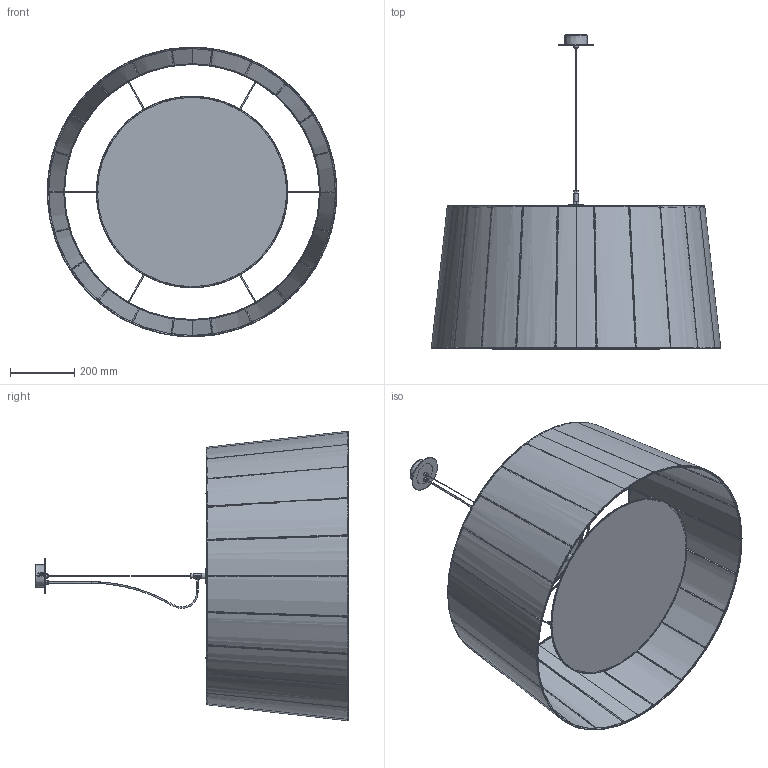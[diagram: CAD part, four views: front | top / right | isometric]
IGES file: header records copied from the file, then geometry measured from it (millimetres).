
Start section: SolidWorks IGES file using analytic representation for surfaces
Global section: file name: C:\Users\Claudiar\Desktop\Nueva carpeta (2)\GT7_3D.IGS; native system: SolidWorks 2013; preprocessor: SolidWorks 2013; author: ClaudiaR; date: 150506.134144; units: millimetre
Bounding box: 899.8 x 975 x 900 mm (x, y, z)
Surface area: 3614251.8 mm2
Topology: 1 solids, 1 shells, 439 faces, 7592 edges, 8911 vertices
Faces by surface type: revolution 248, bspline 189, plane 2
